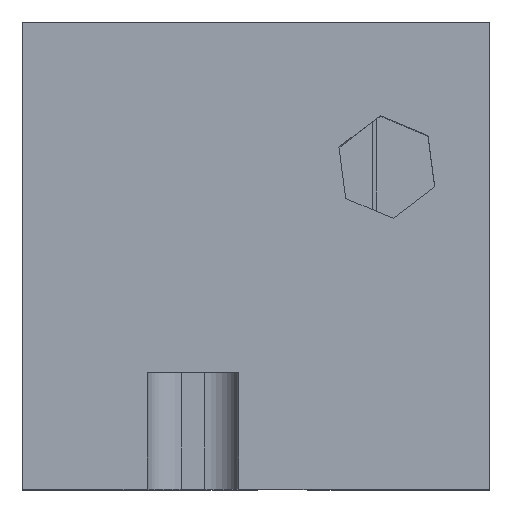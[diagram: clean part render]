
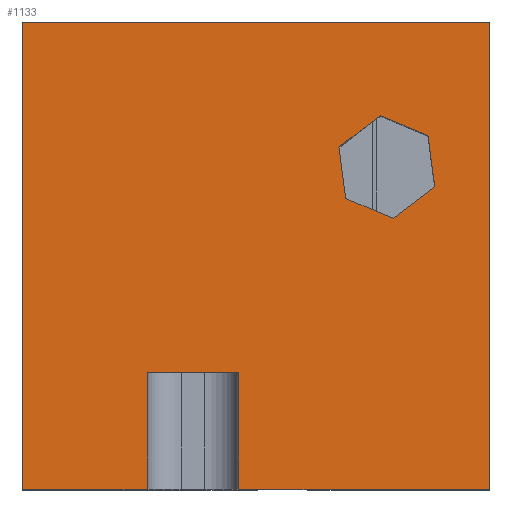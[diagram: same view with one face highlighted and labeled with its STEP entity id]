
A CAD part, top view. The second image highlights one B-rep face of the part: STEP entity #1133.
In plain terms, the highlighted planar face has unit normal (0, 0, 1).
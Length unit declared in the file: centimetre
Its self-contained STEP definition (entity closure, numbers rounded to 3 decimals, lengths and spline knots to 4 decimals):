
#11 = ORIENTED_EDGE ( 'NONE', *, *, #1569, .T. ) ;
#30 = CARTESIAN_POINT ( 'NONE',  ( 677.5681, 732.1372, 1000. ) ) ;
#38 = LINE ( 'NONE', #581, #690 ) ;
#53 = EDGE_CURVE ( 'NONE', #1369, #1465, #238, .T. ) ;
#62 = DIRECTION ( 'NONE',  ( 0., 0., 1. ) ) ;
#69 = VECTOR ( 'NONE', #1719, 100. ) ;
#76 = LINE ( 'NONE', #1588, #1798 ) ;
#83 = DIRECTION ( 'NONE',  ( 0., 1., 0. ) ) ;
#89 = DIRECTION ( 'NONE',  ( 1., 0., 0. ) ) ;
#91 = EDGE_CURVE ( 'NONE', #315, #186, #779, .T. ) ;
#94 = VERTEX_POINT ( 'NONE', #903 ) ;
#102 = ORIENTED_EDGE ( 'NONE', *, *, #53, .F. ) ;
#107 = VERTEX_POINT ( 'NONE', #1472 ) ;
#183 = DIRECTION ( 'NONE',  ( 1., 0., 0. ) ) ;
#185 = LINE ( 'NONE', #738, #804 ) ;
#186 = VERTEX_POINT ( 'NONE', #321 ) ;
#188 = EDGE_CURVE ( 'NONE', #1185, #370, #993, .T. ) ;
#193 = DIRECTION ( 'NONE',  ( 0.13, -0.992, 0. ) ) ;
#213 = CARTESIAN_POINT ( 'NONE',  ( 882.4642, 647.1191, 1000. ) ) ;
#238 = LINE ( 'NONE', #1327, #497 ) ;
#250 = DIRECTION ( 'NONE',  ( -1., 0., 0. ) ) ;
#272 = VECTOR ( 'NONE', #1352, 100. ) ;
#286 = ORIENTED_EDGE ( 'NONE', *, *, #740, .T. ) ;
#291 = VECTOR ( 'NONE', #183, 100. ) ;
#314 = LINE ( 'NONE', #881, #861 ) ;
#315 = VERTEX_POINT ( 'NONE', #1231 ) ;
#321 = CARTESIAN_POINT ( 'NONE',  ( 1000., 1000., 1000. ) ) ;
#327 = DIRECTION ( 'NONE',  ( 0.924, -0.383, 0. ) ) ;
#367 = DIRECTION ( 'NONE',  ( 0., 1., 0. ) ) ;
#370 = VERTEX_POINT ( 'NONE', #1486 ) ;
#373 = FACE_BOUND ( 'NONE', #625, .T. ) ;
#389 = EDGE_CURVE ( 'NONE', #1207, #1465, #803, .T. ) ;
#411 = DIRECTION ( 'NONE',  ( 1., 0., 0. ) ) ;
#420 = LINE ( 'NONE', #826, #453 ) ;
#429 = CARTESIAN_POINT ( 'NONE',  ( 0., 0., 1000. ) ) ;
#448 = CARTESIAN_POINT ( 'NONE',  ( 868.0541, 757.0963, 1000. ) ) ;
#451 = ORIENTED_EDGE ( 'NONE', *, *, #1079, .F. ) ;
#453 = VECTOR ( 'NONE', #946, 100. ) ;
#457 = DIRECTION ( 'NONE',  ( 0., -1., 0. ) ) ;
#459 = DIRECTION ( 'NONE',  ( -0.794, -0.608, 0. ) ) ;
#473 = CARTESIAN_POINT ( 'NONE',  ( 463.1721, 249.7498, 1000. ) ) ;
#497 = VECTOR ( 'NONE', #367, 100. ) ;
#498 = EDGE_CURVE ( 'NONE', #94, #1537, #314, .T. ) ;
#527 = EDGE_CURVE ( 'NONE', #1537, #1742, #185, .T. ) ;
#540 = ORIENTED_EDGE ( 'NONE', *, *, #1397, .F. ) ;
#553 = VERTEX_POINT ( 'NONE', #1430 ) ;
#573 = EDGE_CURVE ( 'NONE', #1207, #553, #611, .T. ) ;
#581 = CARTESIAN_POINT ( 'NONE',  ( 0., 1000., 1000. ) ) ;
#598 = LINE ( 'NONE', #616, #291 ) ;
#611 = LINE ( 'NONE', #1159, #69 ) ;
#616 = CARTESIAN_POINT ( 'NONE',  ( 0., 0., 1000. ) ) ;
#625 = EDGE_LOOP ( 'NONE', ( #1134, #540, #451, #964, #1377, #1755 ) ) ;
#639 = ORIENTED_EDGE ( 'NONE', *, *, #1347, .T. ) ;
#640 = CARTESIAN_POINT ( 'NONE',  ( 691.9782, 622.1601, 1000. ) ) ;
#686 = CARTESIAN_POINT ( 'NONE',  ( 0., 249.7498, 1000. ) ) ;
#690 = VECTOR ( 'NONE', #457, 100. ) ;
#714 = CARTESIAN_POINT ( 'NONE',  ( 691.9782, 622.1601, 1000. ) ) ;
#726 = CARTESIAN_POINT ( 'NONE',  ( 882.4642, 647.1191, 1000. ) ) ;
#738 = CARTESIAN_POINT ( 'NONE',  ( 677.5681, 732.1372, 1000. ) ) ;
#740 = EDGE_CURVE ( 'NONE', #186, #1630, #76, .T. ) ;
#758 = PLANE ( 'NONE',  #1584 ) ;
#774 = VECTOR ( 'NONE', #327, 100. ) ;
#779 = LINE ( 'NONE', #1599, #959 ) ;
#803 = LINE ( 'NONE', #686, #272 ) ;
#804 = VECTOR ( 'NONE', #193, 100. ) ;
#806 = LINE ( 'NONE', #429, #1645 ) ;
#823 = ORIENTED_EDGE ( 'NONE', *, *, #389, .T. ) ;
#826 = CARTESIAN_POINT ( 'NONE',  ( 794.4263, 579.651, 1000. ) ) ;
#861 = VECTOR ( 'NONE', #459, 100. ) ;
#876 = VECTOR ( 'NONE', #1282, 100. ) ;
#881 = CARTESIAN_POINT ( 'NONE',  ( 765.606, 799.6053, 1000. ) ) ;
#903 = CARTESIAN_POINT ( 'NONE',  ( 765.606, 799.6053, 1000. ) ) ;
#946 = DIRECTION ( 'NONE',  ( 0.794, 0.608, 0. ) ) ;
#959 = VECTOR ( 'NONE', #83, 100. ) ;
#964 = ORIENTED_EDGE ( 'NONE', *, *, #527, .F. ) ;
#993 = LINE ( 'NONE', #726, #876 ) ;
#1008 = LINE ( 'NONE', #714, #774 ) ;
#1030 = ORIENTED_EDGE ( 'NONE', *, *, #573, .F. ) ;
#1079 = EDGE_CURVE ( 'NONE', #1742, #107, #1008, .T. ) ;
#1126 = CARTESIAN_POINT ( 'NONE',  ( 0., 1000., 1000. ) ) ;
#1133 = ADVANCED_FACE ( 'NONE', ( #373, #1198 ), #758, .T. ) ;
#1134 = ORIENTED_EDGE ( 'NONE', *, *, #188, .F. ) ;
#1159 = CARTESIAN_POINT ( 'NONE',  ( 266.9775, 249.7498, 1000. ) ) ;
#1178 = CARTESIAN_POINT ( 'NONE',  ( 266.9775, 249.7498, 1000. ) ) ;
#1185 = VERTEX_POINT ( 'NONE', #213 ) ;
#1198 = FACE_OUTER_BOUND ( 'NONE', #1571, .T. ) ;
#1207 = VERTEX_POINT ( 'NONE', #1178 ) ;
#1231 = CARTESIAN_POINT ( 'NONE',  ( 1000., 0., 1000. ) ) ;
#1281 = DIRECTION ( 'NONE',  ( -0.924, 0.383, 0. ) ) ;
#1282 = DIRECTION ( 'NONE',  ( -0.13, 0.992, 0. ) ) ;
#1286 = ORIENTED_EDGE ( 'NONE', *, *, #1500, .T. ) ;
#1295 = VECTOR ( 'NONE', #1281, 100. ) ;
#1304 = CARTESIAN_POINT ( 'NONE',  ( 0., 0., 1000. ) ) ;
#1327 = CARTESIAN_POINT ( 'NONE',  ( 463.1721, 249.7498, 1000. ) ) ;
#1347 = EDGE_CURVE ( 'NONE', #1369, #315, #806, .T. ) ;
#1352 = DIRECTION ( 'NONE',  ( 1., 0., 0. ) ) ;
#1369 = VERTEX_POINT ( 'NONE', #1510 ) ;
#1377 = ORIENTED_EDGE ( 'NONE', *, *, #498, .F. ) ;
#1397 = EDGE_CURVE ( 'NONE', #107, #1185, #420, .T. ) ;
#1430 = CARTESIAN_POINT ( 'NONE',  ( 266.9775, 0., 1000. ) ) ;
#1465 = VERTEX_POINT ( 'NONE', #473 ) ;
#1472 = CARTESIAN_POINT ( 'NONE',  ( 794.4263, 579.651, 1000. ) ) ;
#1486 = CARTESIAN_POINT ( 'NONE',  ( 868.0541, 757.0963, 1000. ) ) ;
#1500 = EDGE_CURVE ( 'NONE', #1630, #1695, #38, .T. ) ;
#1510 = CARTESIAN_POINT ( 'NONE',  ( 463.1721, 0., 1000. ) ) ;
#1537 = VERTEX_POINT ( 'NONE', #30 ) ;
#1543 = ORIENTED_EDGE ( 'NONE', *, *, #91, .T. ) ;
#1569 = EDGE_CURVE ( 'NONE', #1695, #553, #598, .T. ) ;
#1571 = EDGE_LOOP ( 'NONE', ( #1030, #823, #102, #639, #1543, #286, #1286, #11 ) ) ;
#1579 = EDGE_CURVE ( 'NONE', #370, #94, #1691, .T. ) ;
#1584 = AXIS2_PLACEMENT_3D ( 'NONE', #1304, #62, #89 ) ;
#1588 = CARTESIAN_POINT ( 'NONE',  ( 0., 1000., 1000. ) ) ;
#1599 = CARTESIAN_POINT ( 'NONE',  ( 1000., 1000., 1000. ) ) ;
#1630 = VERTEX_POINT ( 'NONE', #1126 ) ;
#1645 = VECTOR ( 'NONE', #411, 100. ) ;
#1684 = CARTESIAN_POINT ( 'NONE',  ( 0., 0., 1000. ) ) ;
#1691 = LINE ( 'NONE', #448, #1295 ) ;
#1695 = VERTEX_POINT ( 'NONE', #1684 ) ;
#1719 = DIRECTION ( 'NONE',  ( 0., -1., 0. ) ) ;
#1742 = VERTEX_POINT ( 'NONE', #640 ) ;
#1755 = ORIENTED_EDGE ( 'NONE', *, *, #1579, .F. ) ;
#1798 = VECTOR ( 'NONE', #250, 100. ) ;
